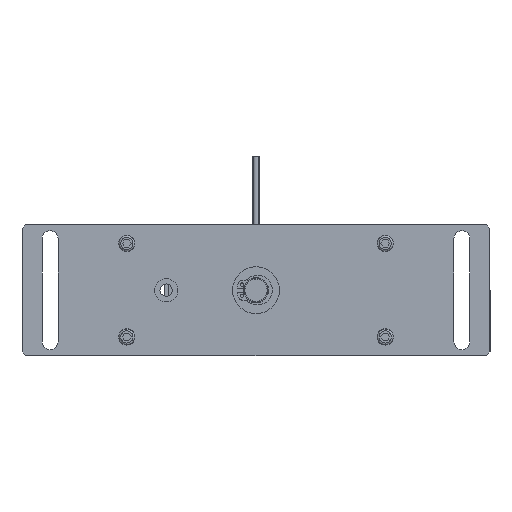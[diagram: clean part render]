
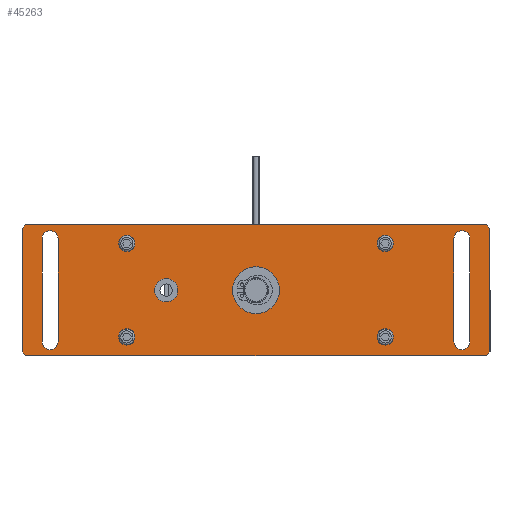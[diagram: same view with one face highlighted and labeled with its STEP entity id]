
A CAD part, front view. The second image highlights one B-rep face of the part: STEP entity #45263.
In plain terms, the highlighted planar face has unit normal (0, -1, 0) as drawn and (0, 0, 1) by its records, which use the part's own axes.
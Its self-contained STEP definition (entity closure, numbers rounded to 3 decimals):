
#1523=PLANE('',#59691);
#6159=LINE('',#86797,#10641);
#6165=LINE('',#86811,#10647);
#6169=LINE('',#86820,#10651);
#6171=LINE('',#86824,#10653);
#6183=LINE('',#86869,#10665);
#6184=LINE('',#86873,#10666);
#6185=LINE('',#86877,#10667);
#6186=LINE('',#86881,#10668);
#6187=LINE('',#86894,#10669);
#6188=LINE('',#86895,#10670);
#6189=LINE('',#86896,#10671);
#6190=LINE('',#86897,#10672);
#10641=VECTOR('',#72580,1000.);
#10647=VECTOR('',#72588,1000.);
#10651=VECTOR('',#72594,1000.);
#10653=VECTOR('',#72598,1000.);
#10665=VECTOR('',#72636,1000.);
#10666=VECTOR('',#72639,1000.);
#10667=VECTOR('',#72642,1000.);
#10668=VECTOR('',#72645,1000.);
#10669=VECTOR('',#72658,1000.);
#10670=VECTOR('',#72659,1000.);
#10671=VECTOR('',#72660,1000.);
#10672=VECTOR('',#72661,1000.);
#23875=ORIENTED_EDGE('',*,*,#30721,.F.);
#23876=ORIENTED_EDGE('',*,*,#30722,.F.);
#23877=ORIENTED_EDGE('',*,*,#30723,.F.);
#23878=ORIENTED_EDGE('',*,*,#30724,.F.);
#23879=ORIENTED_EDGE('',*,*,#30725,.F.);
#23880=ORIENTED_EDGE('',*,*,#30726,.F.);
#23881=ORIENTED_EDGE('',*,*,#30727,.F.);
#23882=ORIENTED_EDGE('',*,*,#30728,.F.);
#23883=ORIENTED_EDGE('',*,*,#30729,.T.);
#23884=ORIENTED_EDGE('',*,*,#30730,.T.);
#23885=ORIENTED_EDGE('',*,*,#30731,.T.);
#23886=ORIENTED_EDGE('',*,*,#30732,.T.);
#23887=ORIENTED_EDGE('',*,*,#30733,.T.);
#23888=ORIENTED_EDGE('',*,*,#30734,.T.);
#23889=ORIENTED_EDGE('',*,*,#30697,.T.);
#23890=ORIENTED_EDGE('',*,*,#30735,.T.);
#23891=ORIENTED_EDGE('',*,*,#30699,.T.);
#23892=ORIENTED_EDGE('',*,*,#30736,.T.);
#23893=ORIENTED_EDGE('',*,*,#30687,.T.);
#23894=ORIENTED_EDGE('',*,*,#30737,.T.);
#23895=ORIENTED_EDGE('',*,*,#30693,.T.);
#23896=ORIENTED_EDGE('',*,*,#30738,.T.);
#30687=EDGE_CURVE('',#35226,#35227,#6159,.T.);
#30693=EDGE_CURVE('',#35233,#35232,#6165,.T.);
#30697=EDGE_CURVE('',#35237,#35236,#6169,.T.);
#30699=EDGE_CURVE('',#35238,#35239,#6171,.T.);
#30721=EDGE_CURVE('',#35256,#35257,#37163,.T.);
#30722=EDGE_CURVE('',#35258,#35256,#6183,.T.);
#30723=EDGE_CURVE('',#35259,#35258,#37164,.T.);
#30724=EDGE_CURVE('',#35257,#35259,#6184,.T.);
#30725=EDGE_CURVE('',#35260,#35261,#37165,.T.);
#30726=EDGE_CURVE('',#35262,#35260,#6185,.T.);
#30727=EDGE_CURVE('',#35263,#35262,#37166,.T.);
#30728=EDGE_CURVE('',#35261,#35263,#6186,.T.);
#30729=EDGE_CURVE('',#35264,#35264,#37167,.T.);
#30730=EDGE_CURVE('',#35265,#35265,#37168,.T.);
#30731=EDGE_CURVE('',#35266,#35266,#37169,.T.);
#30732=EDGE_CURVE('',#35267,#35267,#37170,.T.);
#30733=EDGE_CURVE('',#35268,#35268,#37171,.T.);
#30734=EDGE_CURVE('',#35269,#35269,#37172,.T.);
#30735=EDGE_CURVE('',#35236,#35238,#6187,.F.);
#30736=EDGE_CURVE('',#35239,#35226,#6188,.F.);
#30737=EDGE_CURVE('',#35227,#35233,#6189,.F.);
#30738=EDGE_CURVE('',#35232,#35237,#6190,.F.);
#35226=VERTEX_POINT('',#86798);
#35227=VERTEX_POINT('',#86799);
#35232=VERTEX_POINT('',#86810);
#35233=VERTEX_POINT('',#86812);
#35236=VERTEX_POINT('',#86819);
#35237=VERTEX_POINT('',#86821);
#35238=VERTEX_POINT('',#86825);
#35239=VERTEX_POINT('',#86826);
#35256=VERTEX_POINT('',#86867);
#35257=VERTEX_POINT('',#86868);
#35258=VERTEX_POINT('',#86870);
#35259=VERTEX_POINT('',#86872);
#35260=VERTEX_POINT('',#86875);
#35261=VERTEX_POINT('',#86876);
#35262=VERTEX_POINT('',#86878);
#35263=VERTEX_POINT('',#86880);
#35264=VERTEX_POINT('',#86883);
#35265=VERTEX_POINT('',#86885);
#35266=VERTEX_POINT('',#86887);
#35267=VERTEX_POINT('',#86889);
#35268=VERTEX_POINT('',#86891);
#35269=VERTEX_POINT('',#86893);
#37163=CIRCLE('',#59692,4.25);
#37164=CIRCLE('',#59693,4.25);
#37165=CIRCLE('',#59694,4.25);
#37166=CIRCLE('',#59695,4.25);
#37167=CIRCLE('',#59696,6.25);
#37168=CIRCLE('',#59697,12.5);
#37169=CIRCLE('',#59698,4.35);
#37170=CIRCLE('',#59699,4.35);
#37171=CIRCLE('',#59700,4.35);
#37172=CIRCLE('',#59701,4.35);
#39523=EDGE_LOOP('',(#23875,#23876,#23877,#23878));
#39524=EDGE_LOOP('',(#23879,#23880,#23881,#23882));
#39525=EDGE_LOOP('',(#23883));
#39526=EDGE_LOOP('',(#23884));
#39527=EDGE_LOOP('',(#23885));
#39528=EDGE_LOOP('',(#23886));
#39529=EDGE_LOOP('',(#23887));
#39530=EDGE_LOOP('',(#23888));
#39531=EDGE_LOOP('',(#23889,#23890,#23891,#23892,#23893,#23894,#23895,#23896));
#41938=FACE_BOUND('',#39523,.T.);
#41939=FACE_BOUND('',#39524,.T.);
#41940=FACE_BOUND('',#39525,.T.);
#41941=FACE_BOUND('',#39526,.T.);
#41942=FACE_BOUND('',#39527,.T.);
#41943=FACE_BOUND('',#39528,.T.);
#41944=FACE_BOUND('',#39529,.T.);
#41945=FACE_BOUND('',#39530,.T.);
#41946=FACE_BOUND('',#39531,.T.);
#45263=ADVANCED_FACE('',(#41938,#41939,#41940,#41941,#41942,#41943,#41944,
#41945,#41946),#1523,.T.);
#59691=AXIS2_PLACEMENT_3D('',#86865,#72632,#72633);
#59692=AXIS2_PLACEMENT_3D('',#86866,#72634,#72635);
#59693=AXIS2_PLACEMENT_3D('',#86871,#72637,#72638);
#59694=AXIS2_PLACEMENT_3D('',#86874,#72640,#72641);
#59695=AXIS2_PLACEMENT_3D('',#86879,#72643,#72644);
#59696=AXIS2_PLACEMENT_3D('',#86882,#72646,#72647);
#59697=AXIS2_PLACEMENT_3D('',#86884,#72648,#72649);
#59698=AXIS2_PLACEMENT_3D('',#86886,#72650,#72651);
#59699=AXIS2_PLACEMENT_3D('',#86888,#72652,#72653);
#59700=AXIS2_PLACEMENT_3D('',#86890,#72654,#72655);
#59701=AXIS2_PLACEMENT_3D('',#86892,#72656,#72657);
#72580=DIRECTION('',(0.,-1.,0.));
#72588=DIRECTION('',(1.,0.,0.));
#72594=DIRECTION('',(0.,1.,0.));
#72598=DIRECTION('',(-1.,0.,0.));
#72632=DIRECTION('',(0.,0.,1.));
#72633=DIRECTION('',(1.,0.,0.));
#72634=DIRECTION('',(0.,0.,1.));
#72635=DIRECTION('',(0.,-1.,0.));
#72636=DIRECTION('',(0.,1.,0.));
#72637=DIRECTION('',(0.,0.,1.));
#72638=DIRECTION('',(-1.,0.,0.));
#72639=DIRECTION('',(0.,-1.,0.));
#72640=DIRECTION('',(0.,0.,1.));
#72641=DIRECTION('',(0.,-1.,0.));
#72642=DIRECTION('',(0.,1.,0.));
#72643=DIRECTION('',(0.,0.,1.));
#72644=DIRECTION('',(-1.,0.,0.));
#72645=DIRECTION('',(0.,-1.,0.));
#72646=DIRECTION('',(0.,0.,-1.));
#72647=DIRECTION('',(0.,-1.,0.));
#72648=DIRECTION('',(0.,0.,-1.));
#72649=DIRECTION('',(0.,-1.,0.));
#72650=DIRECTION('',(0.,0.,-1.));
#72651=DIRECTION('',(0.,-1.,0.));
#72652=DIRECTION('',(0.,0.,-1.));
#72653=DIRECTION('',(0.,-1.,0.));
#72654=DIRECTION('',(0.,0.,-1.));
#72655=DIRECTION('',(0.,-1.,0.));
#72656=DIRECTION('',(0.,0.,-1.));
#72657=DIRECTION('',(0.,-1.,0.));
#72658=DIRECTION('',(0.707,-0.707,0.));
#72659=DIRECTION('',(0.707,0.707,0.));
#72660=DIRECTION('',(-0.707,0.707,0.));
#72661=DIRECTION('',(-0.707,-0.707,0.));
#86797=CARTESIAN_POINT('',(-125.,35.,0.));
#86798=CARTESIAN_POINT('',(-125.,33.,0.));
#86799=CARTESIAN_POINT('',(-125.,-33.,0.));
#86810=CARTESIAN_POINT('',(123.,-35.,0.));
#86811=CARTESIAN_POINT('',(-125.,-35.,0.));
#86812=CARTESIAN_POINT('',(-123.,-35.,0.));
#86819=CARTESIAN_POINT('',(125.,33.,0.));
#86820=CARTESIAN_POINT('',(125.,-35.,0.));
#86821=CARTESIAN_POINT('',(125.,-33.,0.));
#86824=CARTESIAN_POINT('',(125.,35.,0.));
#86825=CARTESIAN_POINT('',(123.,35.,0.));
#86826=CARTESIAN_POINT('',(-123.,35.,0.));
#86865=CARTESIAN_POINT('',(-125.,-35.,0.));
#86866=CARTESIAN_POINT('',(110.,27.5,0.));
#86867=CARTESIAN_POINT('',(114.25,27.5,0.));
#86868=CARTESIAN_POINT('',(105.75,27.5,0.));
#86869=CARTESIAN_POINT('',(114.25,-27.5,0.));
#86870=CARTESIAN_POINT('',(114.25,-27.5,0.));
#86871=CARTESIAN_POINT('',(110.,-27.5,0.));
#86872=CARTESIAN_POINT('',(105.75,-27.5,0.));
#86873=CARTESIAN_POINT('',(105.75,27.5,0.));
#86874=CARTESIAN_POINT('',(-110.,27.5,0.));
#86875=CARTESIAN_POINT('',(-105.75,27.5,0.));
#86876=CARTESIAN_POINT('',(-114.25,27.5,0.));
#86877=CARTESIAN_POINT('',(-105.75,-27.5,0.));
#86878=CARTESIAN_POINT('',(-105.75,-27.5,0.));
#86879=CARTESIAN_POINT('',(-110.,-27.5,0.));
#86880=CARTESIAN_POINT('',(-114.25,-27.5,0.));
#86881=CARTESIAN_POINT('',(-114.25,27.5,0.));
#86882=CARTESIAN_POINT('',(-48.,0.,0.));
#86883=CARTESIAN_POINT('',(-48.,-6.25,0.));
#86884=CARTESIAN_POINT('',(0.,0.,0.));
#86885=CARTESIAN_POINT('',(0.,-12.5,0.));
#86886=CARTESIAN_POINT('',(-69.,-25.,0.));
#86887=CARTESIAN_POINT('',(-69.,-29.35,0.));
#86888=CARTESIAN_POINT('',(69.,-25.,0.));
#86889=CARTESIAN_POINT('',(69.,-29.35,0.));
#86890=CARTESIAN_POINT('',(69.,25.,0.));
#86891=CARTESIAN_POINT('',(69.,20.65,0.));
#86892=CARTESIAN_POINT('',(-69.,25.,0.));
#86893=CARTESIAN_POINT('',(-69.,20.65,0.));
#86894=CARTESIAN_POINT('',(34.,124.,0.));
#86895=CARTESIAN_POINT('',(-159.,-1.,0.));
#86896=CARTESIAN_POINT('',(-124.,-34.,0.));
#86897=CARTESIAN_POINT('',(-1.,-159.,0.));
